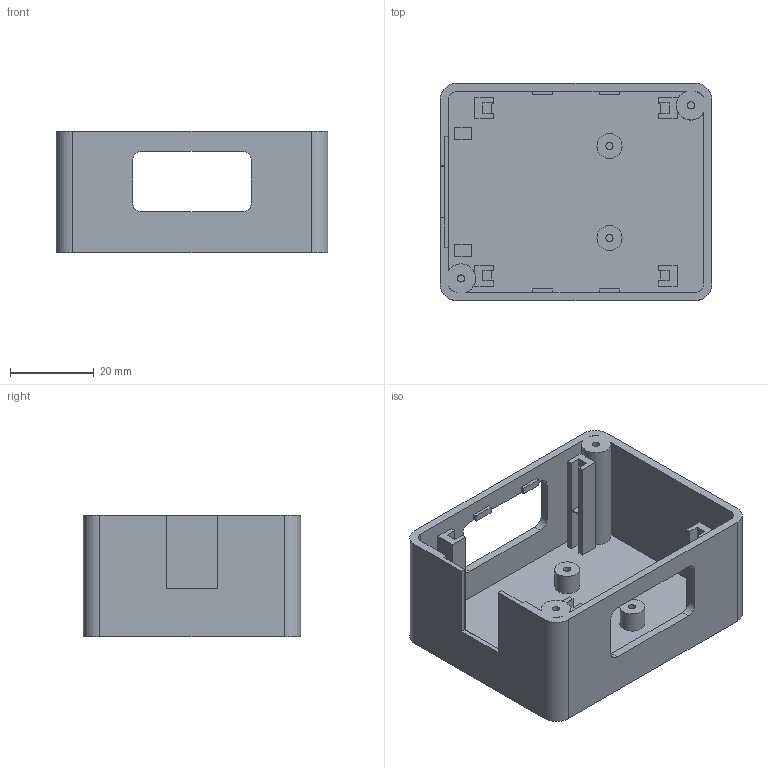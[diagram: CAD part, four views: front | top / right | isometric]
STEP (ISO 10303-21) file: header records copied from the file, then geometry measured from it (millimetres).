
FILE_DESCRIPTION(('Open CASCADE Model'),'2;1');
FILE_NAME('Open CASCADE Shape Model','2026-11-08T17:26:55',('Author'),( 'Open CASCADE'),'Open CASCADE STEP processor 7.8','Open CASCADE 7.8' ,'Unknown');
FILE_SCHEMA(('AUTOMOTIVE_DESIGN { 1 0 10303 214 1 1 1 1 }'));
Length unit declared in the file: millimetre
Products named in the file (1): Open CASCADE STEP translator 7.8 1
Bounding box: 65 x 52 x 29 mm (x, y, z)
Volume: 20287.7 mm3; surface area: 20698.8 mm2
Topology: 1 solids, 1 shells, 140 faces, 378 edges, 252 vertices
Faces by surface type: plane 114, cylinder 26
Full cylindrical faces by diameter (mm): 1.7 x4, 6 x2
Entity records: 9047 total; most frequent: CARTESIAN_POINT 1914, DIRECTION 1165, ORIENTED_EDGE 756, PCURVE 756, DEFINITIONAL_REPRESENTATION 756, LINE 731, VECTOR 731, EDGE_CURVE 378
